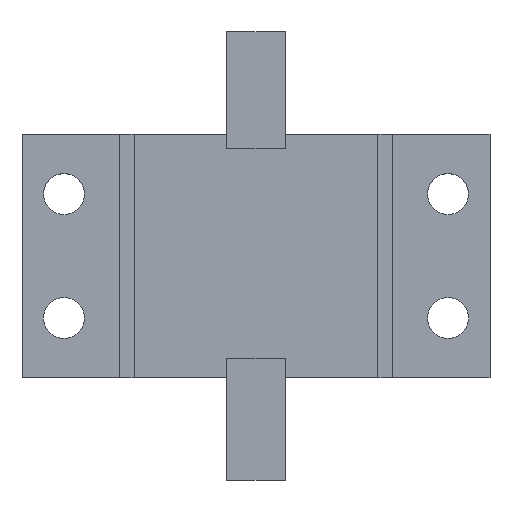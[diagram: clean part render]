
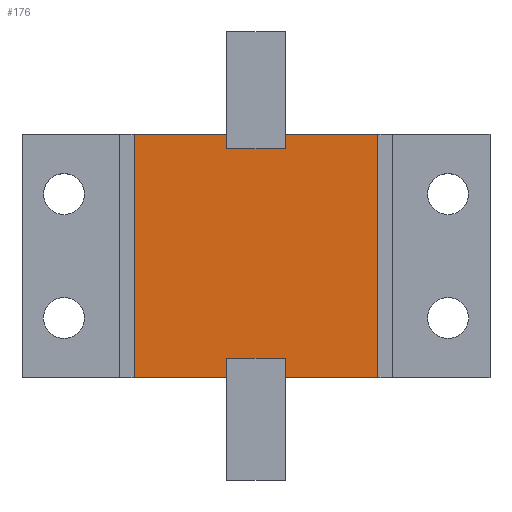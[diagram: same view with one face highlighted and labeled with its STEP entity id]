
A CAD part, top view. The second image highlights one B-rep face of the part: STEP entity #176.
In plain terms, the highlighted planar face has unit normal (0, 0, 1).
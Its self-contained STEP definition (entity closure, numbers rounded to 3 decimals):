
#176=ADVANCED_FACE('',(#421),#423,.T.);
#421=FACE_BOUND('',#422,.T.);
#422=EDGE_LOOP('',(#801,#802,#803,#804,#805,#806,#807,#808,#809,#810,#811,#812));
#423=PLANE('',#424);
#424=AXIS2_PLACEMENT_3D('',#425,#426,#427);
#425=CARTESIAN_POINT('',(0.,0.,4.9));
#426=DIRECTION('',(0.,0.,1.));
#427=DIRECTION('',(-1.,0.,0.));
#801=ORIENTED_EDGE('',*,*,#1049,.F.);
#802=ORIENTED_EDGE('',*,*,#1067,.T.);
#803=ORIENTED_EDGE('',*,*,#1068,.T.);
#804=ORIENTED_EDGE('',*,*,#1054,.T.);
#805=ORIENTED_EDGE('',*,*,#1035,.F.);
#806=ORIENTED_EDGE('',*,*,#1028,.F.);
#807=ORIENTED_EDGE('',*,*,#1032,.F.);
#808=ORIENTED_EDGE('',*,*,#1066,.T.);
#809=ORIENTED_EDGE('',*,*,#1069,.T.);
#810=ORIENTED_EDGE('',*,*,#1070,.T.);
#811=ORIENTED_EDGE('',*,*,#1042,.F.);
#812=ORIENTED_EDGE('',*,*,#1046,.F.);
#1028=EDGE_CURVE('',#1210,#1211,#1212,.T.);
#1032=EDGE_CURVE('',#1203,#1210,#1218,.T.);
#1035=EDGE_CURVE('',#1211,#1202,#1222,.T.);
#1042=EDGE_CURVE('',#1234,#1226,#1235,.T.);
#1046=EDGE_CURVE('',#1241,#1234,#1242,.T.);
#1049=EDGE_CURVE('',#1227,#1241,#1246,.T.);
#1054=EDGE_CURVE('',#1252,#1202,#1253,.T.);
#1066=EDGE_CURVE('',#1203,#1274,#1276,.T.);
#1067=EDGE_CURVE('',#1227,#1277,#1278,.T.);
#1068=EDGE_CURVE('',#1277,#1252,#1279,.T.);
#1069=EDGE_CURVE('',#1274,#1280,#1281,.T.);
#1070=EDGE_CURVE('',#1280,#1226,#1282,.T.);
#1202=VERTEX_POINT('',#1381);
#1203=VERTEX_POINT('',#1382);
#1210=VERTEX_POINT('',#1397);
#1211=VERTEX_POINT('',#1398);
#1212=LINE('',#1399,#1400);
#1218=LINE('',#1413,#1414);
#1222=LINE('',#1423,#1424);
#1226=VERTEX_POINT('',#1433);
#1227=VERTEX_POINT('',#1434);
#1234=VERTEX_POINT('',#1449);
#1235=LINE('',#1450,#1451);
#1241=VERTEX_POINT('',#1464);
#1242=LINE('',#1465,#1466);
#1246=LINE('',#1475,#1476);
#1252=VERTEX_POINT('',#1491);
#1253=LINE('',#1492,#1493);
#1274=VERTEX_POINT('',#1535);
#1276=LINE('',#1539,#1540);
#1277=VERTEX_POINT('',#1542);
#1278=LINE('',#1543,#1544);
#1279=LINE('',#1546,#1547);
#1280=VERTEX_POINT('',#1549);
#1281=LINE('',#1550,#1551);
#1282=LINE('',#1553,#1554);
#1381=CARTESIAN_POINT('',(3.,12.5,4.9));
#1382=CARTESIAN_POINT('',(-3.,12.5,4.9));
#1397=CARTESIAN_POINT('',(-3.,11.,4.9));
#1398=CARTESIAN_POINT('',(3.,11.,4.9));
#1399=CARTESIAN_POINT('',(-3.,11.,4.9));
#1400=VECTOR('',#1401,1.);
#1401=DIRECTION('',(1.,0.,0.));
#1413=CARTESIAN_POINT('',(-3.,12.5,4.9));
#1414=VECTOR('',#1415,1.);
#1415=DIRECTION('',(0.,-1.,0.));
#1423=CARTESIAN_POINT('',(3.,11.,4.9));
#1424=VECTOR('',#1425,1.);
#1425=DIRECTION('',(0.,1.,0.));
#1433=CARTESIAN_POINT('',(-3.,-12.5,4.9));
#1434=CARTESIAN_POINT('',(3.,-12.5,4.9));
#1449=CARTESIAN_POINT('',(-3.,-10.5,4.9));
#1450=CARTESIAN_POINT('',(-3.,-10.5,4.9));
#1451=VECTOR('',#1452,1.);
#1452=DIRECTION('',(0.,-1.,0.));
#1464=CARTESIAN_POINT('',(3.,-10.5,4.9));
#1465=CARTESIAN_POINT('',(3.,-10.5,4.9));
#1466=VECTOR('',#1467,1.);
#1467=DIRECTION('',(-1.,0.,0.));
#1475=CARTESIAN_POINT('',(3.,-12.5,4.9));
#1476=VECTOR('',#1477,1.);
#1477=DIRECTION('',(0.,1.,0.));
#1491=CARTESIAN_POINT('',(12.5,12.5,4.9));
#1492=CARTESIAN_POINT('',(12.5,12.5,4.9));
#1493=VECTOR('',#1494,1.);
#1494=DIRECTION('',(-1.,0.,0.));
#1535=CARTESIAN_POINT('',(-12.5,12.5,4.9));
#1539=CARTESIAN_POINT('',(-3.,12.5,4.9));
#1540=VECTOR('',#1541,1.);
#1541=DIRECTION('',(-1.,0.,0.));
#1542=CARTESIAN_POINT('',(12.5,-12.5,4.9));
#1543=CARTESIAN_POINT('',(3.,-12.5,4.9));
#1544=VECTOR('',#1545,1.);
#1545=DIRECTION('',(1.,0.,0.));
#1546=CARTESIAN_POINT('',(12.5,-12.5,4.9));
#1547=VECTOR('',#1548,1.);
#1548=DIRECTION('',(0.,1.,0.));
#1549=CARTESIAN_POINT('',(-12.5,-12.5,4.9));
#1550=CARTESIAN_POINT('',(-12.5,12.5,4.9));
#1551=VECTOR('',#1552,1.);
#1552=DIRECTION('',(0.,-1.,0.));
#1553=CARTESIAN_POINT('',(-12.5,-12.5,4.9));
#1554=VECTOR('',#1555,1.);
#1555=DIRECTION('',(1.,0.,0.));
